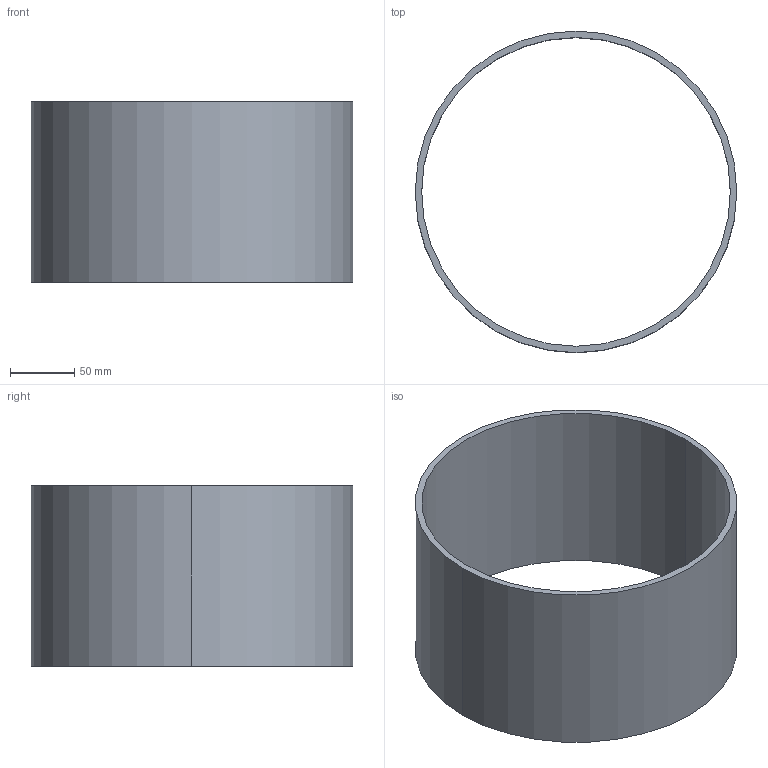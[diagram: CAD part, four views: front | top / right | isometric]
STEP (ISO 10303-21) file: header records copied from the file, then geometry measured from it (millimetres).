
FILE_DESCRIPTION(('CATIA V5 STEP Exchange'),'2;1');
FILE_NAME('C:\_Andres\UNIVERSIDAD\IQS\ASIGNATURAS\DAO\EXF\EXF-15161c\1original\Segura_Sánchez_Ej07-tabla_v25.stp','2016-03-04T21:16:36+00:00',('none'),('none'),'CATIA Version 5 Release 20 SP 1 (IN-10)','CATIA V5 STEP AP203','none');
FILE_SCHEMA(('CONFIG_CONTROL_DESIGN'));
Length unit declared in the file: millimetre
Products named in the file (1): Segura_Sánchez_Ej07-tabla_v25
Bounding box: 250 x 250 x 140 mm (x, y, z)
Volume: 538783.1 mm3; surface area: 223210.2 mm2
Topology: 1 solids, 1 shells, 6 faces, 13 edges, 10 vertices
Faces by surface type: cylinder 4, plane 2
Entity records: 208 total; most frequent: CARTESIAN_POINT 29, ORIENTED_EDGE 24, DIRECTION 23, AXIS2_PLACEMENT_3D 14, EDGE_CURVE 12, CIRCLE 8, EDGE_LOOP 8, VERTEX_POINT 8
